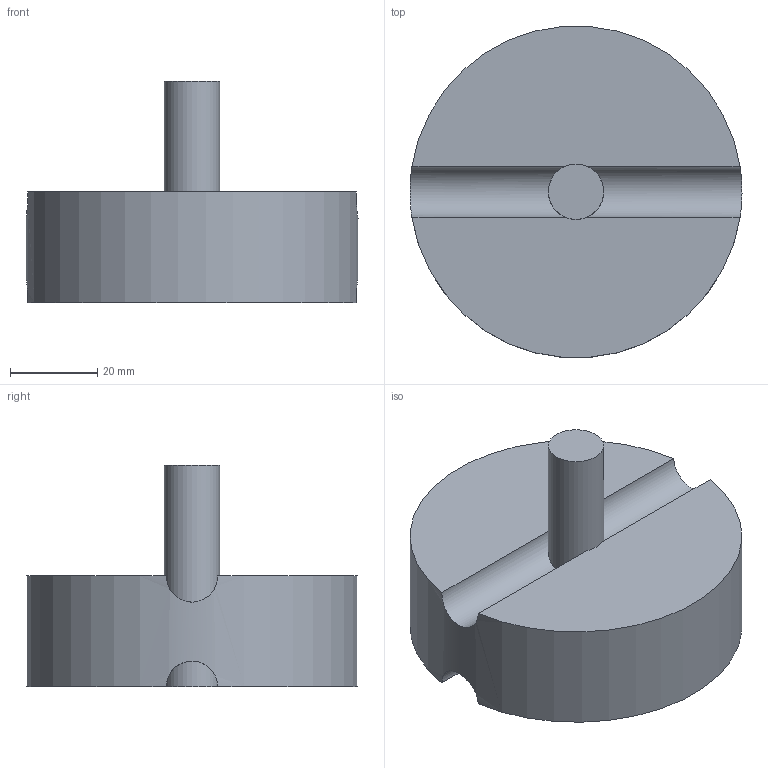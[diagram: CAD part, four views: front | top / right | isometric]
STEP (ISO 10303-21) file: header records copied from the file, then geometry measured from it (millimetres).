
FILE_DESCRIPTION(/* description */ ('Alibre Inc.'),/* implementation_level */ '2;1');
FILE_NAME(/* name */ 'export0',/* time_stamp */ '2005-08-12T07:29:54-04:00',/* author */ (''),/* organization */ (''),/* preprocessor_version */ 'ST-DEVELOPER v10',/* originating_system */ 'Alibre',/* authorisation */ '');
FILE_SCHEMA (('ALIBRE_SCHEMA','CONFIG_CONTROL_DESIGN'));
Length unit declared in the file: centimetre
Products named in the file (3): ID_1
Bounding box: 76.2 x 75.94 x 50.8 mm (x, y, z)
Volume: 111940 mm3; surface area: 18698.8 mm2
Topology: 2 solids, 2 shells, 13 faces, 33 edges, 22 vertices
Faces by surface type: cylinder 7, plane 6
Full cylindrical faces by diameter (mm): 12.7 x2, 76.2 x1
Entity records: 1728 total; most frequent: CARTESIAN_POINT 288, INTEGERVALUEPAIR 105, DIRECTION 85, STRINGVALUEPAIR 74, REALVALUEPAIR 70, BOOLEANVALUEPAIR 65, ORIENTED_EDGE 52, PERSON_AND_ORGANIZATION 32
